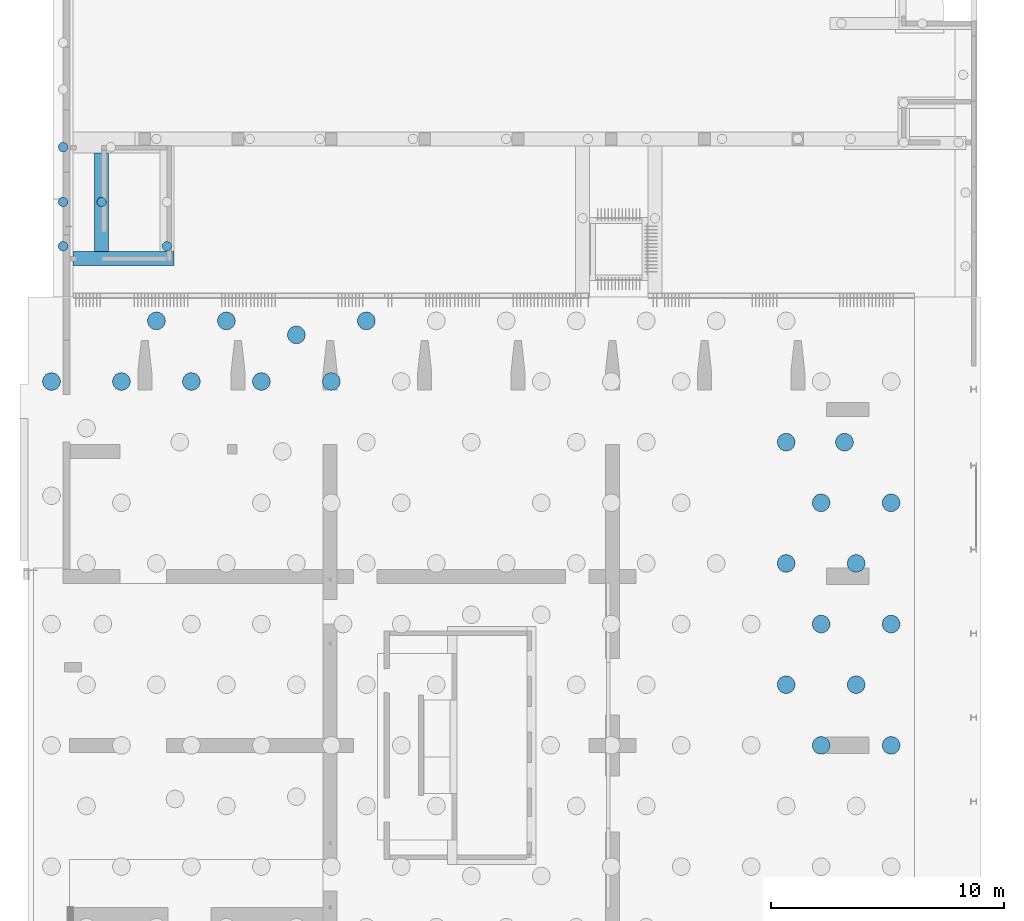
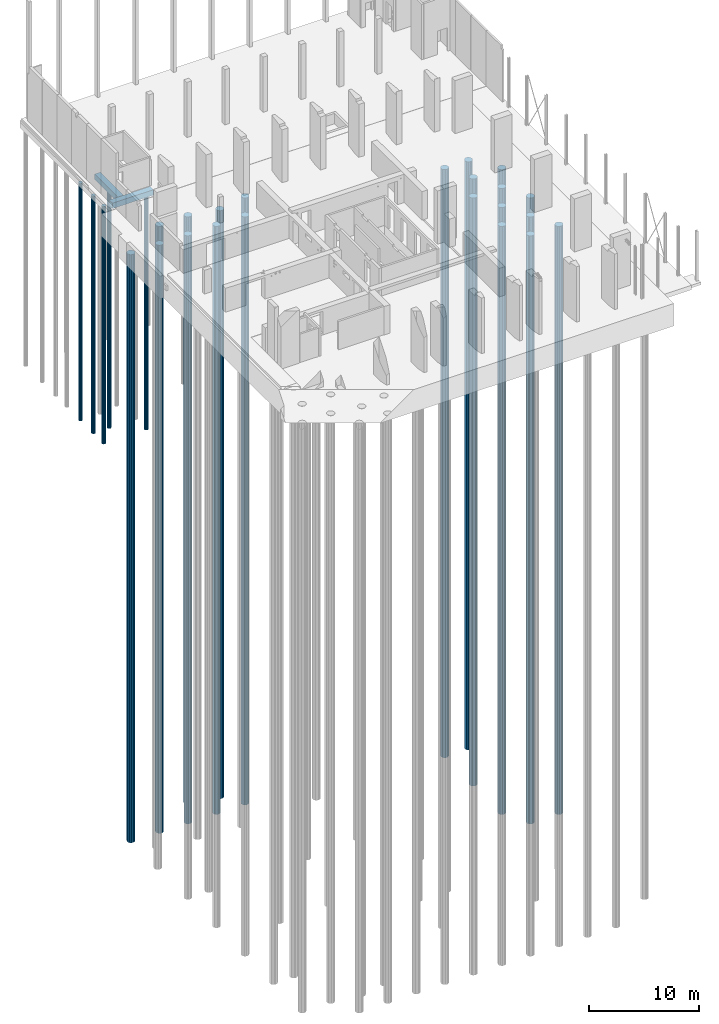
# One storey, part 6 of 26: 26 piles, 2 footings.
"""IFC2X3 building model written with IfcOpenShell, lengths in millimetres."""

from ifc_helpers import new_model, entity, si_unit, converted_unit, derived_unit, direction, frame, frame_2d, origin, place, context, subcontext, project, spatial, polyline, rectangle, outline, extrude, material, element, save


model = new_model("IFC2X3")

# Units and contexts
model_context = context("Model", 3, precision=0.01, world=origin(), true_north=direction((6.12303176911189e-17, 1.0)))
body_context = subcontext(model_context, "Body", "Model", "MODEL_VIEW")
ifc_project = project(units=[si_unit("LENGTHUNIT", "METRE", prefix="MILLI"), si_unit("AREAUNIT", "SQUARE_METRE"), si_unit("VOLUMEUNIT", "CUBIC_METRE"), converted_unit("PLANEANGLEUNIT", "DEGREE", entity("IfcRatioMeasure", 0.0174532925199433), si_unit("PLANEANGLEUNIT", "RADIAN"), dimensions=[0, 0, 0, 0, 0, 0, 0]), si_unit("MASSUNIT", "GRAM", prefix="KILO"), derived_unit("MASSDENSITYUNIT", [(si_unit("MASSUNIT", "GRAM", prefix="KILO"), 1), (si_unit("LENGTHUNIT", "METRE"), -3)]), si_unit("TIMEUNIT", "SECOND"), si_unit("FREQUENCYUNIT", "HERTZ"), si_unit("THERMODYNAMICTEMPERATUREUNIT", "DEGREE_CELSIUS"), derived_unit("THERMALTRANSMITTANCEUNIT", [(si_unit("MASSUNIT", "GRAM", prefix="KILO"), 1), (si_unit("THERMODYNAMICTEMPERATUREUNIT", "KELVIN"), -1), (si_unit("TIMEUNIT", "SECOND"), -3)]), derived_unit("VOLUMETRICFLOWRATEUNIT", [(si_unit("LENGTHUNIT", "METRE"), 3), (si_unit("TIMEUNIT", "SECOND"), -1)]), si_unit("ELECTRICCURRENTUNIT", "AMPERE"), si_unit("ELECTRICVOLTAGEUNIT", "VOLT"), si_unit("POWERUNIT", "WATT"), si_unit("FORCEUNIT", "NEWTON", prefix="KILO"), si_unit("ILLUMINANCEUNIT", "LUX"), si_unit("LUMINOUSFLUXUNIT", "LUMEN"), si_unit("LUMINOUSINTENSITYUNIT", "CANDELA"), derived_unit("USERDEFINED", [(si_unit("MASSUNIT", "GRAM", prefix="KILO"), -1), (si_unit("LENGTHUNIT", "METRE"), -2), (si_unit("TIMEUNIT", "SECOND"), 3), (si_unit("LUMINOUSFLUXUNIT", "LUMEN"), 1)]), derived_unit("LINEARVELOCITYUNIT", [(si_unit("LENGTHUNIT", "METRE"), 1), (si_unit("TIMEUNIT", "SECOND"), -1)]), si_unit("PRESSUREUNIT", "PASCAL"), derived_unit("USERDEFINED", [(si_unit("LENGTHUNIT", "METRE"), -2), (si_unit("MASSUNIT", "GRAM", prefix="KILO"), 1), (si_unit("TIMEUNIT", "SECOND"), -2)])], contexts=[model_context])

# Site, building, storey
site_placement = place(None, origin())
site = spatial("IfcSite", under=ifc_project, at=site_placement, Name="Default", CompositionType="ELEMENT")
building_placement = place(site_placement, origin())
building = spatial("IfcBuilding", under=site, at=building_placement, Name="niet gebruiken", CompositionType="ELEMENT")
storey_placement = place(building_placement, origin())
storey = spatial("IfcBuildingStorey", under=building, at=storey_placement, Name="00 begane grond", CompositionType="ELEMENT", Elevation=0.0)

# Footings
ifc_material = material(Name="NLRS_f2_beton ihwg")
footing_1_placement = place(storey_placement, origin())
element("IfcFooting", 1, at=footing_1_placement, inside=storey, material=ifc_material, Name="NLRS_16.12_SF_WPB_funderingsbalk ihwg recht_gen:600x600", ObjectType="NLRS_16.12_SF_WPB_funderingsbalk ihwg recht_gen:600x600", PredefinedType="FOOTING_BEAM", context=body_context, shape_type="SweptSolid", body=[
    extrude(rectangle(XDim=4230.00000000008, YDim=600.000000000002, at=frame_2d((-2.04636307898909e-12, 0.0), x_axis=(1.0, 0.0))), frame((125900.0, 40785.0, -1200.0), z_axis=(0.0, 0.0, 1.0), x_axis=(0.0, 1.0, 0.0)), (0.0, 0.0, 1.0), 599.999999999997),
])
footing_2_placement = place(storey_placement, origin())
element("IfcFooting", 2, at=footing_2_placement, inside=storey, material=ifc_material, Name="NLRS_16.12_SF_WPB_funderingsbalk ihwg recht_gen:600x600", ObjectType="NLRS_16.12_SF_WPB_funderingsbalk ihwg recht_gen:600x600", PredefinedType="FOOTING_BEAM", context=body_context, shape_type="SweptSolid", body=[
    extrude(rectangle(XDim=4324.99999999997, YDim=600.000000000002, at=frame_2d((-312.500000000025, 99.9999999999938), x_axis=(1.0, 0.0))), frame((126525.0, 38470.0, -1200.0), z_axis=(0.0, 0.0, 1.0), x_axis=(-1.0, 0.0, 0.0)), (0.0, 0.0, 1.0), 599.999999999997),
])

# Piles
pile_1_placement = place(storey_placement, origin())
element("IfcPile", 3, at=pile_1_placement, inside=storey, material=ifc_material, Name="NLRS_17.12_SFO_TLB_funderingspaal grondverdringend_gen:Tubex_r762/950", ObjectType="NLRS_17.12_SFO_TLB_funderingspaal grondverdringend_gen:Tubex_r762/950", context=body_context, shape_type="SweptSolid", body=[
    extrude(outline(polyline([(-33.2063379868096, -379.550179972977), (33.2063379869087, -379.550179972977), (161.01755772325, -345.303266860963), (269.407683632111, -269.407683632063), (345.303266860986, -161.017557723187), (379.550179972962, -33.2063379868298), (368.017739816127, 98.6100561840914), (312.09692887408, 218.532622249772), (218.532622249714, 312.096928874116), (98.6100561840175, 368.01773981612), (33.2063379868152, 379.550179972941), (-33.2063379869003, 379.550179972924), (-161.017557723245, 345.303266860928), (-269.407683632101, 269.407683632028), (-345.303266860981, 161.017557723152), (-379.550179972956, 33.2063379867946), (-368.017739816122, -98.6100561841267), (-312.096928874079, -218.532622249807), (-218.532622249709, -312.096928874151), (-98.6100561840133, -368.017739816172), (-33.2063379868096, -379.550179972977)])), frame((128250.0, 35700.0, -68100.0), z_axis=(0.0, 0.0, 1.0), x_axis=(0.087155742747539, -0.996194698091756, 0.0)), (0.0, 0.0, 1.0), 65380.0),
])
pile_2_placement = place(storey_placement, origin())
element("IfcPile", 4, at=pile_2_placement, inside=storey, material=ifc_material, Name="NLRS_17.12_SFO_TLB_funderingspaal grondverdringend_gen:Tubex_r762/950", ObjectType="NLRS_17.12_SFO_TLB_funderingspaal grondverdringend_gen:Tubex_r762/950", context=body_context, shape_type="SweptSolid", body=[
    extrude(outline(polyline([(-33.2063379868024, -379.550179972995), (33.2063379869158, -379.550179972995), (161.017557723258, -345.303266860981), (269.407683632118, -269.407683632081), (345.303266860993, -161.017557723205), (379.550179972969, -33.2063379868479), (368.017739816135, 98.6100561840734), (312.096928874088, 218.532622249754), (218.532622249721, 312.096928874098), (98.6100561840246, 368.017739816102), (33.2063379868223, 379.550179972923), (-33.2063379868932, 379.550179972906), (-161.017557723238, 345.30326686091), (-269.407683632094, 269.40768363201), (-345.303266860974, 161.017557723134), (-379.550179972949, 33.2063379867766), (-368.017739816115, -98.6100561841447), (-312.096928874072, -218.532622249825), (-218.532622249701, -312.096928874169), (-98.6100561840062, -368.01773981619), (-33.2063379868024, -379.550179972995)])), frame((131250.0, 35700.0, -68100.0), z_axis=(0.0, 0.0, 1.0), x_axis=(0.087155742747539, -0.996194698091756, 0.0)), (0.0, 0.0, 1.0), 65380.0),
])
pile_3_placement = place(storey_placement, origin())
element("IfcPile", 5, at=pile_3_placement, inside=storey, material=ifc_material, Name="NLRS_17.12_SFO_TLB_funderingspaal grondverdringend_gen:Tubex_r762/950", ObjectType="NLRS_17.12_SFO_TLB_funderingspaal grondverdringend_gen:Tubex_r762/950", context=body_context, shape_type="SweptSolid", body=[
    extrude(outline(polyline([(-33.2063379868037, -379.55017997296), (33.2063379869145, -379.55017997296), (161.017557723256, -345.303266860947), (269.407683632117, -269.407683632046), (345.303266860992, -161.01755772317), (379.550179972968, -33.206337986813), (368.017739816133, 98.6100561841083), (312.096928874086, 218.532622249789), (218.53262224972, 312.096928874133), (98.6100561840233, 368.017739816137), (33.206337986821, 379.550179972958), (-33.2063379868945, 379.550179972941), (-161.017557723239, 345.303266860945), (-269.407683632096, 269.407683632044), (-345.303266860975, 161.017557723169), (-379.55017997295, 33.2063379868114), (-368.017739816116, -98.6100561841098), (-312.096928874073, -218.53262224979), (-218.532622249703, -312.096928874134), (-98.6100561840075, -368.017739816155), (-33.2063379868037, -379.55017997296)])), frame((134250.0, 35100.0, -68100.0), z_axis=(0.0, 0.0, 1.0), x_axis=(0.087155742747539, -0.996194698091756, 0.0)), (0.0, 0.0, 1.0), 65380.0),
])
pile_4_placement = place(storey_placement, origin())
element("IfcPile", 6, at=pile_4_placement, inside=storey, material=ifc_material, Name="NLRS_17.12_SFO_TLB_funderingspaal grondverdringend_gen:Tubex_r762/950", ObjectType="NLRS_17.12_SFO_TLB_funderingspaal grondverdringend_gen:Tubex_r762/950", context=body_context, shape_type="SweptSolid", body=[
    extrude(outline(polyline([(-33.2063379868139, -379.550179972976), (33.2063379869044, -379.550179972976), (161.017557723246, -345.303266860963), (269.407683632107, -269.407683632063), (345.303266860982, -161.017557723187), (379.550179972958, -33.2063379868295), (368.017739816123, 98.6100561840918), (312.096928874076, 218.532622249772), (218.53262224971, 312.096928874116), (98.6100561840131, 368.01773981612), (33.2063379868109, 379.550179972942), (-33.2063379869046, 379.550179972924), (-161.017557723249, 345.303266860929), (-269.407683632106, 269.407683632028), (-345.303266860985, 161.017557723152), (-379.550179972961, 33.2063379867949), (-368.017739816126, -98.6100561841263), (-312.096928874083, -218.532622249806), (-218.532622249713, -312.096928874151), (-98.6100561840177, -368.017739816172), (-33.2063379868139, -379.550179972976)])), frame((137250.0, 35700.0, -68100.0), z_axis=(0.0, 0.0, 1.0), x_axis=(0.087155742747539, -0.996194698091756, 0.0)), (0.0, 0.0, 1.0), 65380.0),
])
pile_5_placement = place(storey_placement, origin())
element("IfcPile", 7, at=pile_5_placement, inside=storey, material=ifc_material, Name="NLRS_17.12_SFO_TLB_funderingspaal grondverdringend_gen:Tubex_r762/950", ObjectType="NLRS_17.12_SFO_TLB_funderingspaal grondverdringend_gen:Tubex_r762/950", context=body_context, shape_type="SweptSolid", body=[
    extrude(outline(polyline([(-33.2063379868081, -379.550179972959), (33.2063379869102, -379.550179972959), (161.017557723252, -345.303266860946), (269.407683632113, -269.407683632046), (345.303266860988, -161.01755772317), (379.550179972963, -33.2063379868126), (368.017739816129, 98.6100561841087), (312.096928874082, 218.532622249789), (218.532622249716, 312.096928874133), (98.610056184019, 368.017739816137), (33.2063379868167, 379.550179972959), (-33.2063379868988, 379.550179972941), (-161.017557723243, 345.303266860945), (-269.4076836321, 269.407683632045), (-345.303266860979, 161.017557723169), (-379.550179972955, 33.2063379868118), (-368.01773981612, -98.6100561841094), (-312.096928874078, -218.532622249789), (-218.532622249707, -312.096928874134), (-98.6100561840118, -368.017739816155), (-33.2063379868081, -379.550179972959)])), frame((129750.0, 33100.0, -68100.0), z_axis=(0.0, 0.0, 1.0), x_axis=(0.087155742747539, -0.996194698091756, 0.0)), (0.0, 0.0, 1.0), 65380.0),
])
pile_6_placement = place(storey_placement, origin())
element("IfcPile", 8, at=pile_6_placement, inside=storey, material=ifc_material, Name="NLRS_17.12_SFO_TLB_funderingspaal grondverdringend_gen:Tubex_r762/950", ObjectType="NLRS_17.12_SFO_TLB_funderingspaal grondverdringend_gen:Tubex_r762/950", context=body_context, shape_type="SweptSolid", body=[
    extrude(outline(polyline([(-33.2063379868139, -379.550179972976), (33.2063379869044, -379.550179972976), (161.017557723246, -345.303266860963), (269.407683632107, -269.407683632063), (345.303266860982, -161.017557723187), (379.550179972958, -33.2063379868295), (368.017739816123, 98.6100561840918), (312.096928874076, 218.532622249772), (218.53262224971, 312.096928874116), (98.6100561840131, 368.01773981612), (33.2063379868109, 379.550179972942), (-33.2063379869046, 379.550179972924), (-161.017557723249, 345.303266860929), (-269.407683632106, 269.407683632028), (-345.303266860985, 161.017557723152), (-379.550179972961, 33.2063379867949), (-368.017739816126, -98.6100561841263), (-312.096928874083, -218.532622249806), (-218.532622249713, -312.096928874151), (-98.6100561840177, -368.017739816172), (-33.2063379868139, -379.550179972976)])), frame((135750.0, 33100.0, -68100.0), z_axis=(0.0, 0.0, 1.0), x_axis=(0.087155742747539, -0.996194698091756, 0.0)), (0.0, 0.0, 1.0), 65380.0),
])
pile_7_placement = place(storey_placement, origin())
element("IfcPile", 9, at=pile_7_placement, inside=storey, material=ifc_material, Name="NLRS_17.12_SFO_TLB_funderingspaal grondverdringend_gen:Tubex_r762/950", ObjectType="NLRS_17.12_SFO_TLB_funderingspaal grondverdringend_gen:Tubex_r762/950", context=body_context, shape_type="SweptSolid", body=[
    extrude(outline(polyline([(-33.2063379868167, -379.550179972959), (33.2063379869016, -379.550179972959), (161.017557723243, -345.303266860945), (269.407683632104, -269.407683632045), (345.303266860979, -161.017557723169), (379.550179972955, -33.2063379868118), (368.01773981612, 98.6100561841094), (312.096928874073, 218.53262224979), (218.532622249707, 312.096928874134), (98.6100561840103, 368.017739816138), (33.2063379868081, 379.550179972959), (-33.2063379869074, 379.550179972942), (-161.017557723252, 345.303266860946), (-269.407683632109, 269.407683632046), (-345.303266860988, 161.01755772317), (-379.550179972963, 33.2063379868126), (-368.017739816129, -98.6100561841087), (-312.096928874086, -218.532622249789), (-218.532622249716, -312.096928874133), (-98.6100561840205, -368.017739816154), (-33.2063379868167, -379.550179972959)])), frame((132750.0, 33100.0, -68100.0), z_axis=(0.0, 0.0, 1.0), x_axis=(0.087155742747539, -0.996194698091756, 0.0)), (0.0, 0.0, 1.0), 65380.0),
])
pile_8_placement = place(storey_placement, origin())
element("IfcPile", 10, at=pile_8_placement, inside=storey, material=ifc_material, Name="NLRS_17.12_SFO_TLB_funderingspaal grondverdringend_gen:Tubex_r762/950", ObjectType="NLRS_17.12_SFO_TLB_funderingspaal grondverdringend_gen:Tubex_r762/950", context=body_context, shape_type="SweptSolid", body=[
    extrude(outline(polyline([(-33.2063379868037, -379.55017997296), (33.2063379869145, -379.55017997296), (161.017557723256, -345.303266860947), (269.407683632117, -269.407683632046), (345.303266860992, -161.01755772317), (379.550179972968, -33.206337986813), (368.017739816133, 98.6100561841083), (312.096928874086, 218.532622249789), (218.53262224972, 312.096928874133), (98.6100561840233, 368.017739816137), (33.206337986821, 379.550179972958), (-33.2063379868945, 379.550179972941), (-161.017557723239, 345.303266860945), (-269.407683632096, 269.407683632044), (-345.303266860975, 161.017557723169), (-379.55017997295, 33.2063379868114), (-368.017739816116, -98.6100561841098), (-312.096928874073, -218.53262224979), (-218.532622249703, -312.096928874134), (-98.6100561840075, -368.017739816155), (-33.2063379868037, -379.55017997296)])), frame((126750.0, 33100.0, -68100.0), z_axis=(0.0, 0.0, 1.0), x_axis=(0.087155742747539, -0.996194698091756, 0.0)), (0.0, 0.0, 1.0), 65380.0),
])
pile_9_placement = place(storey_placement, origin())
element("IfcPile", 11, at=pile_9_placement, inside=storey, material=ifc_material, Name="NLRS_17.12_SFO_TLB_funderingspaal grondverdringend_gen:Tubex_r762/950", ObjectType="NLRS_17.12_SFO_TLB_funderingspaal grondverdringend_gen:Tubex_r762/950", context=body_context, shape_type="SweptSolid", body=[
    extrude(outline(polyline([(-33.2063379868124, -379.550179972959), (33.2063379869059, -379.550179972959), (161.017557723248, -345.303266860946), (269.407683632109, -269.407683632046), (345.303266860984, -161.01755772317), (379.550179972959, -33.2063379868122), (368.017739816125, 98.610056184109), (312.096928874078, 218.532622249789), (218.532622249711, 312.096928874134), (98.6100561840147, 368.017739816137), (33.2063379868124, 379.550179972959), (-33.2063379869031, 379.550179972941), (-161.017557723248, 345.303266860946), (-269.407683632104, 269.407683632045), (-345.303266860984, 161.01755772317), (-379.550179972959, 33.2063379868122), (-368.017739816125, -98.610056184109), (-312.096928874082, -218.532622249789), (-218.532622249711, -312.096928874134), (-98.6100561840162, -368.017739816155), (-33.2063379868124, -379.550179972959)])), frame((123750.0, 33100.0, -68100.0), z_axis=(0.0, 0.0, 1.0), x_axis=(0.087155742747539, -0.996194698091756, 0.0)), (0.0, 0.0, 1.0), 65380.0),
])
pile_10_placement = place(storey_placement, origin())
element("IfcPile", 12, at=pile_10_placement, inside=storey, material=ifc_material, Name="NLRS_17.12_SFO_TLB_funderingspaal grondverdringend_gen:Tubex_r762/950", ObjectType="NLRS_17.12_SFO_TLB_funderingspaal grondverdringend_gen:Tubex_r762/950", context=body_context, shape_type="SweptSolid", body=[
    extrude(outline(polyline([(-33.2063379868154, -379.550179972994), (33.2063379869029, -379.550179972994), (161.017557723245, -345.30326686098), (269.407683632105, -269.40768363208), (345.303266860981, -161.017557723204), (379.550179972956, -33.2063379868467), (368.017739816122, 98.6100561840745), (312.096928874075, 218.532622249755), (218.532622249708, 312.096928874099), (98.6100561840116, 368.017739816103), (33.2063379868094, 379.550179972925), (-33.2063379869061, 379.550179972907), (-161.017557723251, 345.303266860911), (-269.407683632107, 269.407683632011), (-345.303266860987, 161.017557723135), (-379.550179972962, 33.2063379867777), (-368.017739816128, -98.6100561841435), (-312.096928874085, -218.532622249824), (-218.532622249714, -312.096928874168), (-98.6100561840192, -368.017739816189), (-33.2063379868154, -379.550179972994)])), frame((155250.0, 30500.0, -68100.0), z_axis=(0.0, 0.0, 1.0), x_axis=(0.087155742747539, -0.996194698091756, 0.0)), (0.0, 0.0, 1.0), 65380.0),
])
pile_11_placement = place(storey_placement, origin())
element("IfcPile", 13, at=pile_11_placement, inside=storey, material=ifc_material, Name="NLRS_17.12_SFO_TLB_funderingspaal grondverdringend_gen:Tubex_r762/950", ObjectType="NLRS_17.12_SFO_TLB_funderingspaal grondverdringend_gen:Tubex_r762/950", context=body_context, shape_type="SweptSolid", body=[
    extrude(outline(polyline([(-33.2063379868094, -379.550179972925), (33.2063379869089, -379.550179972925), (161.017557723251, -345.303266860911), (269.407683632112, -269.407683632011), (345.303266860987, -161.017557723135), (379.550179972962, -33.2063379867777), (368.017739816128, 98.6100561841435), (312.096928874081, 218.532622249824), (218.532622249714, 312.096928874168), (98.6100561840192, 368.017739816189), (33.2063379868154, 379.550179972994), (-33.2063379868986, 379.550179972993), (-161.017557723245, 345.30326686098), (-269.407683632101, 269.40768363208), (-345.303266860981, 161.017557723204), (-379.550179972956, 33.2063379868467), (-368.017739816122, -98.6100561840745), (-312.096928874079, -218.532622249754), (-218.532622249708, -312.096928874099), (-98.6100561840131, -368.01773981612), (-33.2063379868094, -379.550179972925)])), frame((157750.0, 30500.0, -68100.0), z_axis=(0.0, 0.0, 1.0), x_axis=(0.087155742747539, -0.996194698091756, 0.0)), (0.0, 0.0, 1.0), 65380.0),
])
pile_12_placement = place(storey_placement, origin())
element("IfcPile", 14, at=pile_12_placement, inside=storey, material=ifc_material, Name="NLRS_17.12_SFO_TLB_funderingspaal grondverdringend_gen:Tubex_r762/950", ObjectType="NLRS_17.12_SFO_TLB_funderingspaal grondverdringend_gen:Tubex_r762/950", context=body_context, shape_type="SweptSolid", body=[
    extrude(outline(polyline([(-33.2063379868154, -379.550179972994), (33.2063379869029, -379.550179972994), (161.017557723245, -345.30326686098), (269.407683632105, -269.40768363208), (345.303266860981, -161.017557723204), (379.550179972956, -33.2063379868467), (368.017739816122, 98.6100561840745), (312.096928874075, 218.532622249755), (218.532622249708, 312.096928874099), (98.6100561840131, 368.01773981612), (33.2063379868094, 379.550179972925), (-33.2063379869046, 379.550179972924), (-161.017557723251, 345.303266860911), (-269.407683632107, 269.407683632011), (-345.303266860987, 161.017557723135), (-379.550179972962, 33.2063379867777), (-368.017739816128, -98.6100561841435), (-312.096928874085, -218.532622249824), (-218.532622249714, -312.096928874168), (-98.6100561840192, -368.017739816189), (-33.2063379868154, -379.550179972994)])), frame((159750.0, 27900.0, -68100.0), z_axis=(0.0, 0.0, 1.0), x_axis=(0.087155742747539, -0.996194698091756, 0.0)), (0.0, 0.0, 1.0), 65380.0),
])
pile_13_placement = place(storey_placement, origin())
element("IfcPile", 15, at=pile_13_placement, inside=storey, material=ifc_material, Name="NLRS_17.12_SFO_TLB_funderingspaal grondverdringend_gen:Tubex_r762/950", ObjectType="NLRS_17.12_SFO_TLB_funderingspaal grondverdringend_gen:Tubex_r762/950", context=body_context, shape_type="SweptSolid", body=[
    extrude(outline(polyline([(-33.2063379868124, -379.550179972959), (33.2063379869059, -379.550179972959), (161.017557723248, -345.303266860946), (269.407683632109, -269.407683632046), (345.303266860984, -161.01755772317), (379.550179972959, -33.2063379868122), (368.017739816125, 98.610056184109), (312.096928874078, 218.532622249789), (218.532622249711, 312.096928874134), (98.6100561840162, 368.017739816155), (33.2063379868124, 379.550179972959), (-33.2063379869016, 379.550179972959), (-161.017557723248, 345.303266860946), (-269.407683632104, 269.407683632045), (-345.303266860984, 161.01755772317), (-379.550179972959, 33.2063379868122), (-368.017739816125, -98.610056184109), (-312.096928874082, -218.532622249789), (-218.532622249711, -312.096928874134), (-98.6100561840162, -368.017739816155), (-33.2063379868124, -379.550179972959)])), frame((156750.0, 27900.0, -68100.0), z_axis=(0.0, 0.0, 1.0), x_axis=(0.087155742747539, -0.996194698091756, 0.0)), (0.0, 0.0, 1.0), 65380.0),
])
pile_14_placement = place(storey_placement, origin())
element("IfcPile", 16, at=pile_14_placement, inside=storey, material=ifc_material, Name="NLRS_17.12_SFO_TLB_funderingspaal grondverdringend_gen:Tubex_r762/950", ObjectType="NLRS_17.12_SFO_TLB_funderingspaal grondverdringend_gen:Tubex_r762/950", context=body_context, shape_type="SweptSolid", body=[
    extrude(outline(polyline([(-33.2063379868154, -379.550179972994), (33.2063379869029, -379.550179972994), (161.017557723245, -345.30326686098), (269.407683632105, -269.40768363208), (345.303266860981, -161.017557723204), (379.550179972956, -33.2063379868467), (368.017739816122, 98.6100561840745), (312.096928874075, 218.532622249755), (218.532622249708, 312.096928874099), (98.6100561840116, 368.017739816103), (33.2063379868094, 379.550179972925), (-33.2063379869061, 379.550179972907), (-161.017557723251, 345.303266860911), (-269.407683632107, 269.407683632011), (-345.303266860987, 161.017557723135), (-379.550179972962, 33.2063379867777), (-368.017739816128, -98.6100561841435), (-312.096928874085, -218.532622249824), (-218.532622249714, -312.096928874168), (-98.6100561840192, -368.017739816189), (-33.2063379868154, -379.550179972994)])), frame((155250.0, 25300.0, -68100.0), z_axis=(0.0, 0.0, 1.0), x_axis=(0.087155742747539, -0.996194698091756, 0.0)), (0.0, 0.0, 1.0), 65380.0),
])
pile_15_placement = place(storey_placement, origin())
element("IfcPile", 17, at=pile_15_placement, inside=storey, material=ifc_material, Name="NLRS_17.12_SFO_TLB_funderingspaal grondverdringend_gen:Tubex_r762/950", ObjectType="NLRS_17.12_SFO_TLB_funderingspaal grondverdringend_gen:Tubex_r762/950", context=body_context, shape_type="SweptSolid", body=[
    extrude(outline(polyline([(-33.2063379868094, -379.550179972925), (33.2063379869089, -379.550179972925), (161.017557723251, -345.303266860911), (269.407683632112, -269.407683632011), (345.303266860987, -161.017557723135), (379.550179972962, -33.2063379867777), (368.017739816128, 98.6100561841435), (312.096928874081, 218.532622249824), (218.532622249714, 312.096928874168), (98.6100561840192, 368.017739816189), (33.2063379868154, 379.550179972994), (-33.2063379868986, 379.550179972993), (-161.017557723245, 345.30326686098), (-269.407683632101, 269.40768363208), (-345.303266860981, 161.017557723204), (-379.550179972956, 33.2063379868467), (-368.017739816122, -98.6100561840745), (-312.096928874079, -218.532622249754), (-218.532622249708, -312.096928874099), (-98.6100561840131, -368.01773981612), (-33.2063379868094, -379.550179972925)])), frame((158250.0, 25300.0, -68100.0), z_axis=(0.0, 0.0, 1.0), x_axis=(0.087155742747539, -0.996194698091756, 0.0)), (0.0, 0.0, 1.0), 65380.0),
])
pile_16_placement = place(storey_placement, origin())
element("IfcPile", 18, at=pile_16_placement, inside=storey, material=ifc_material, Name="NLRS_17.12_SFO_TLB_funderingspaal grondverdringend_gen:Tubex_r762/950", ObjectType="NLRS_17.12_SFO_TLB_funderingspaal grondverdringend_gen:Tubex_r762/950", context=body_context, shape_type="SweptSolid", body=[
    extrude(outline(polyline([(-33.2063379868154, -379.550179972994), (33.2063379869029, -379.550179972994), (161.017557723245, -345.30326686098), (269.407683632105, -269.40768363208), (345.303266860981, -161.017557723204), (379.550179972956, -33.2063379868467), (368.017739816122, 98.6100561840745), (312.096928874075, 218.532622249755), (218.532622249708, 312.096928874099), (98.6100561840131, 368.01773981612), (33.2063379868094, 379.550179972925), (-33.2063379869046, 379.550179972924), (-161.017557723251, 345.303266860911), (-269.407683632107, 269.407683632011), (-345.303266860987, 161.017557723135), (-379.550179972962, 33.2063379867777), (-368.017739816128, -98.6100561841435), (-312.096928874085, -218.532622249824), (-218.532622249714, -312.096928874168), (-98.6100561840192, -368.017739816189), (-33.2063379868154, -379.550179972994)])), frame((159750.0, 22700.0, -68100.0), z_axis=(0.0, 0.0, 1.0), x_axis=(0.087155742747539, -0.996194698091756, 0.0)), (0.0, 0.0, 1.0), 65380.0),
])
pile_17_placement = place(storey_placement, origin())
element("IfcPile", 19, at=pile_17_placement, inside=storey, material=ifc_material, Name="NLRS_17.12_SFO_TLB_funderingspaal grondverdringend_gen:Tubex_r762/950", ObjectType="NLRS_17.12_SFO_TLB_funderingspaal grondverdringend_gen:Tubex_r762/950", context=body_context, shape_type="SweptSolid", body=[
    extrude(outline(polyline([(-33.2063379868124, -379.550179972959), (33.2063379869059, -379.550179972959), (161.017557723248, -345.303266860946), (269.407683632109, -269.407683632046), (345.303266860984, -161.01755772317), (379.550179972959, -33.2063379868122), (368.017739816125, 98.610056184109), (312.096928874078, 218.532622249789), (218.532622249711, 312.096928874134), (98.6100561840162, 368.017739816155), (33.2063379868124, 379.550179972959), (-33.2063379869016, 379.550179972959), (-161.017557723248, 345.303266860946), (-269.407683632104, 269.407683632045), (-345.303266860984, 161.01755772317), (-379.550179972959, 33.2063379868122), (-368.017739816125, -98.610056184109), (-312.096928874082, -218.532622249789), (-218.532622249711, -312.096928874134), (-98.6100561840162, -368.017739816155), (-33.2063379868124, -379.550179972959)])), frame((156750.0, 22700.0, -68100.0), z_axis=(0.0, 0.0, 1.0), x_axis=(0.087155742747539, -0.996194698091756, 0.0)), (0.0, 0.0, 1.0), 65380.0),
])
pile_18_placement = place(storey_placement, origin())
element("IfcPile", 20, at=pile_18_placement, inside=storey, material=ifc_material, Name="NLRS_17.12_SFO_TLB_funderingspaal grondverdringend_gen:Tubex_r762/950", ObjectType="NLRS_17.12_SFO_TLB_funderingspaal grondverdringend_gen:Tubex_r762/950", context=body_context, shape_type="SweptSolid", body=[
    extrude(outline(polyline([(-33.2063379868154, -379.550179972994), (33.2063379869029, -379.550179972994), (161.017557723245, -345.30326686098), (269.407683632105, -269.40768363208), (345.303266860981, -161.017557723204), (379.550179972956, -33.2063379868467), (368.017739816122, 98.6100561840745), (312.096928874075, 218.532622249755), (218.532622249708, 312.096928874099), (98.6100561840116, 368.017739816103), (33.2063379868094, 379.550179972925), (-33.2063379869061, 379.550179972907), (-161.017557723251, 345.303266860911), (-269.407683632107, 269.407683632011), (-345.303266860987, 161.017557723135), (-379.550179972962, 33.2063379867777), (-368.017739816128, -98.6100561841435), (-312.096928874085, -218.532622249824), (-218.532622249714, -312.096928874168), (-98.6100561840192, -368.017739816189), (-33.2063379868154, -379.550179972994)])), frame((155250.0, 20100.0, -68100.0), z_axis=(0.0, 0.0, 1.0), x_axis=(0.087155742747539, -0.996194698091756, 0.0)), (0.0, 0.0, 1.0), 65380.0),
])
pile_19_placement = place(storey_placement, origin())
element("IfcPile", 21, at=pile_19_placement, inside=storey, material=ifc_material, Name="NLRS_17.12_SFO_TLB_funderingspaal grondverdringend_gen:Tubex_r762/950", ObjectType="NLRS_17.12_SFO_TLB_funderingspaal grondverdringend_gen:Tubex_r762/950", context=body_context, shape_type="SweptSolid", body=[
    extrude(outline(polyline([(-33.206337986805, -379.550179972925), (33.2063379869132, -379.550179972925), (161.017557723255, -345.303266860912), (269.407683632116, -269.407683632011), (345.303266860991, -161.017557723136), (379.550179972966, -33.2063379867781), (368.017739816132, 98.6100561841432), (312.096928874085, 218.532622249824), (218.532622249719, 312.096928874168), (98.6100561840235, 368.017739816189), (33.2063379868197, 379.550179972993), (-33.2063379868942, 379.550179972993), (-161.01755772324, 345.30326686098), (-269.407683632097, 269.407683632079), (-345.303266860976, 161.017557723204), (-379.550179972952, 33.2063379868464), (-368.017739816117, -98.6100561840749), (-312.096928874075, -218.532622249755), (-218.532622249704, -312.096928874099), (-98.6100561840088, -368.01773981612), (-33.206337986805, -379.550179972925)])), frame((158250.0, 20100.0, -68100.0), z_axis=(0.0, 0.0, 1.0), x_axis=(0.087155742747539, -0.996194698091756, 0.0)), (0.0, 0.0, 1.0), 65380.0),
])
pile_20_placement = place(storey_placement, origin())
element("IfcPile", 22, at=pile_20_placement, inside=storey, material=ifc_material, Name="NLRS_17.12_SFO_TLB_funderingspaal grondverdringend_gen:Tubex_r762/950", ObjectType="NLRS_17.12_SFO_TLB_funderingspaal grondverdringend_gen:Tubex_r762/950", context=body_context, shape_type="SweptSolid", body=[
    extrude(outline(polyline([(-33.2063379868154, -379.550179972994), (33.2063379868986, -379.550179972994), (161.017557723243, -345.303266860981), (269.407683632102, -269.407683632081), (345.30326686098, -161.017557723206), (379.550179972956, -33.206337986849), (368.01773981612, 98.6100561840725), (312.096928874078, 218.532622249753), (218.53262224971, 312.096928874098), (98.6100561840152, 368.017739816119), (33.2063379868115, 379.550179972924), (-33.2063379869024, 379.550179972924), (-161.017557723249, 345.303266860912), (-269.407683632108, 269.407683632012), (-345.303266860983, 161.017557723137), (-379.550179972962, 33.2063379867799), (-368.017739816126, -98.6100561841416), (-312.096928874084, -218.532622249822), (-218.532622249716, -312.096928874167), (-98.6100561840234, -368.017739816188), (-33.2063379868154, -379.550179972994)])), frame((159750.0, 17500.0, -68100.0), z_axis=(0.0, 0.0, 1.0), x_axis=(0.0871557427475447, -0.996194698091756, 0.0)), (0.0, 0.0, 1.0), 65380.0),
])
pile_21_placement = place(storey_placement, origin())
element("IfcPile", 23, at=pile_21_placement, inside=storey, material=ifc_material, Name="NLRS_17.12_SFO_TLB_funderingspaal grondverdringend_gen:Tubex_r762/950", ObjectType="NLRS_17.12_SFO_TLB_funderingspaal grondverdringend_gen:Tubex_r762/950", context=body_context, shape_type="SweptSolid", body=[
    extrude(outline(polyline([(-33.2063379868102, -379.550179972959), (33.2063379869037, -379.550179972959), (161.017557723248, -345.303266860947), (269.407683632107, -269.407683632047), (345.303266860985, -161.017557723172), (379.550179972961, -33.2063379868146), (368.017739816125, 98.6100561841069), (312.096928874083, 218.532622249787), (218.532622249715, 312.096928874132), (98.6100561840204, 368.017739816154), (33.2063379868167, 379.550179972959), (-33.2063379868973, 379.550179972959), (-161.017557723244, 345.303266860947), (-269.407683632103, 269.407683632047), (-345.303266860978, 161.017557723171), (-379.550179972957, 33.2063379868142), (-368.017739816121, -98.6100561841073), (-312.096928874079, -218.532622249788), (-218.532622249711, -312.096928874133), (-98.6100561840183, -368.017739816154), (-33.2063379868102, -379.550179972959)])), frame((156750.0, 17500.0, -68100.0), z_axis=(0.0, 0.0, 1.0), x_axis=(0.0871557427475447, -0.996194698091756, 0.0)), (0.0, 0.0, 1.0), 65380.0),
])
pile_22_placement = place(storey_placement, origin())
element("IfcPile", 24, at=pile_22_placement, inside=storey, material=ifc_material, Name="NLRS_17.12_SFO_TLB_funderingspaal grondverdringend_gen:Fundex_r410/500", ObjectType="NLRS_17.12_SFO_TLB_funderingspaal grondverdringend_gen:Fundex_r410/500", context=body_context, shape_type="SweptSolid", body=[
    extrude(outline(polyline([(-49.0597111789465, -199.043072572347), (49.059711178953, -199.043072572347), (135.94014493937, -153.444703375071), (191.678329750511, -72.6940018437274), (203.505319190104, 24.7100194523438), (168.711692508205, 116.453273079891), (95.2682502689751, 181.518485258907), (49.0597111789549, 199.043072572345), (-49.0597111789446, 199.043072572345), (-135.940144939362, 153.444703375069), (-191.678329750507, 72.6940018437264), (-203.5053191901, -24.7100194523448), (-168.711692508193, -116.453273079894), (-95.2682502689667, -181.518485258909), (-49.0597111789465, -199.043072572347)])), frame((128700.0, 38900.0, -27600.0), z_axis=(0.0, 0.0, 1.0), x_axis=(0.239315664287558, -0.970941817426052, 0.0)), (0.0, 0.0, 1.0), 26420.0),
])
pile_23_placement = place(storey_placement, origin())
element("IfcPile", 25, at=pile_23_placement, inside=storey, material=ifc_material, Name="NLRS_17.12_SFO_TLB_funderingspaal grondverdringend_gen:Fundex_r410/500", ObjectType="NLRS_17.12_SFO_TLB_funderingspaal grondverdringend_gen:Fundex_r410/500", context=body_context, shape_type="SweptSolid", body=[
    extrude(outline(polyline([(-49.0597111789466, -199.043072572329), (49.059711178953, -199.043072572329), (135.94014493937, -153.444703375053), (191.678329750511, -72.6940018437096), (203.505319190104, 24.7100194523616), (168.711692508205, 116.453273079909), (95.268250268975, 181.518485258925), (49.0597111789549, 199.043072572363), (-49.0597111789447, 199.043072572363), (-135.940144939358, 153.444703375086), (-191.678329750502, 72.6940018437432), (-203.505319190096, -24.710019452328), (-168.711692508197, -116.453273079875), (-95.2682502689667, -181.518485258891), (-49.0597111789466, -199.043072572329)])), frame((124250.0, 38900.0, -27600.0), z_axis=(0.0, 0.0, 1.0), x_axis=(0.239315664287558, -0.970941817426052, 0.0)), (0.0, 0.0, 1.0), 26420.0),
])
pile_24_placement = place(storey_placement, origin())
element("IfcPile", 26, at=pile_24_placement, inside=storey, material=ifc_material, Name="NLRS_17.12_SFO_TLB_funderingspaal grondverdringend_gen:Fundex_r410/500", ObjectType="NLRS_17.12_SFO_TLB_funderingspaal grondverdringend_gen:Fundex_r410/500", context=body_context, shape_type="SweptSolid", body=[
    extrude(outline(polyline([(-49.059711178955, -199.043072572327), (49.0597111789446, -199.043072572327), (135.940144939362, -153.444703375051), (191.678329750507, -72.6940018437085), (203.5053191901, 24.7100194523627), (168.711692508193, 116.453273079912), (95.2682502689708, 181.518485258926), (49.0597111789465, 199.043072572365), (-49.0597111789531, 199.043072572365), (-135.94014493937, 153.444703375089), (-191.678329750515, 72.6940018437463), (-203.505319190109, -24.7100194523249), (-168.711692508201, -116.453273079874), (-95.2682502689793, -181.518485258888), (-49.059711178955, -199.043072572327)])), frame((124250.0, 40800.0, -27600.0), z_axis=(0.0, 0.0, 1.0), x_axis=(0.239315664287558, -0.970941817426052, 0.0)), (0.0, 0.0, 1.0), 26420.0),
])
pile_25_placement = place(storey_placement, origin())
element("IfcPile", 27, at=pile_25_placement, inside=storey, material=ifc_material, Name="NLRS_17.12_SFO_TLB_funderingspaal grondverdringend_gen:Fundex_r410/500", ObjectType="NLRS_17.12_SFO_TLB_funderingspaal grondverdringend_gen:Fundex_r410/500", context=body_context, shape_type="SweptSolid", body=[
    extrude(outline(polyline([(-49.059711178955, -199.043072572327), (49.0597111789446, -199.043072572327), (135.940144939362, -153.444703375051), (191.678329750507, -72.6940018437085), (203.5053191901, 24.7100194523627), (168.711692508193, 116.453273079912), (95.2682502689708, 181.518485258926), (49.0597111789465, 199.043072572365), (-49.0597111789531, 199.043072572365), (-135.94014493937, 153.444703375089), (-191.678329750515, 72.6940018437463), (-203.505319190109, -24.7100194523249), (-168.711692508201, -116.453273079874), (-95.2682502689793, -181.518485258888), (-49.059711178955, -199.043072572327)])), frame((125900.0, 40800.0, -27600.0), z_axis=(0.0, 0.0, 1.0), x_axis=(0.239315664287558, -0.970941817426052, 0.0)), (0.0, 0.0, 1.0), 26420.0),
])
pile_26_placement = place(storey_placement, origin())
element("IfcPile", 28, at=pile_26_placement, inside=storey, material=ifc_material, Name="NLRS_17.12_SFO_TLB_funderingspaal grondverdringend_gen:Fundex_r410/500", ObjectType="NLRS_17.12_SFO_TLB_funderingspaal grondverdringend_gen:Fundex_r410/500", context=body_context, shape_type="SweptSolid", body=[
    extrude(outline(polyline([(-49.0597111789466, -199.043072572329), (49.059711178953, -199.043072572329), (135.94014493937, -153.444703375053), (191.678329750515, -72.6940018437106), (203.505319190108, 24.7100194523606), (168.711692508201, 116.45327307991), (95.2682502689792, 181.518485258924), (49.0597111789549, 199.043072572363), (-49.0597111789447, 199.043072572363), (-135.940144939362, 153.444703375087), (-191.678329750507, 72.6940018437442), (-203.5053191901, -24.7100194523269), (-168.711692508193, -116.453273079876), (-95.2682502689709, -181.51848525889), (-49.0597111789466, -199.043072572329)])), frame((124250.0, 43150.0, -27600.0), z_axis=(0.0, 0.0, 1.0), x_axis=(0.239315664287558, -0.970941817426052, 0.0)), (0.0, 0.0, 1.0), 26420.0),
])

save(model, "model.ifc")
